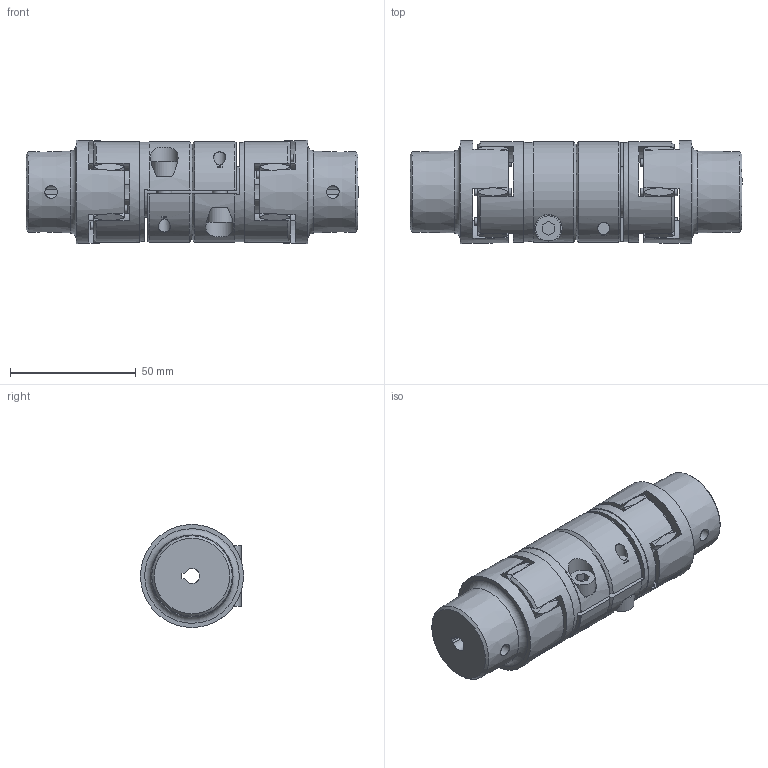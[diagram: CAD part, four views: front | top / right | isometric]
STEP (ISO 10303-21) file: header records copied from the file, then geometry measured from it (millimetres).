
FILE_DESCRIPTION(/* description */ (''),/* implementation_level */ '2;1');
FILE_NAME(/* name */ 'VRRP19-L82-6-PF-6-PF',/* time_stamp */ '2024-01-05T15:32:22+01:00',/* author */ ('M. Horlacher'),/* organization */ (''),/* preprocessor_version */ 'ST-DEVELOPER v20',/* originating_system */ 'Autodesk Inventor 2024',/* authorisation */ '');
FILE_SCHEMA (('AUTOMOTIVE_DESIGN { 1 0 10303 214 3 1 1 }'));
Length unit declared in the file: millimetre
Products named in the file (6): RP STEP; RP19 ø20H7-KL-AL; RP19-Nabe_1; RP19 Stern 92Shore; RP19-Nabe_1_1; VE Rohr Dummy
Assembly tree (7 placements, depth 2):
  RP STEP
    RP19 ø20H7-KL-AL  x2
    RP19 Stern 92Shore  x2
    RP19-Nabe_1
    RP19-Nabe_1_1
    VE Rohr Dummy
Bounding box: 132 x 41 x 41 mm (x, y, z)
Volume: 120496.2 mm3; surface area: 48444.3 mm2
Topology: 9 solids, 9 shells, 238 faces, 598 edges, 400 vertices
Faces by surface type: plane 92, cylinder 62, bspline 48, cone 34, torus 2
Full cylindrical faces by diameter (mm): 3 x12, 4.8 x2, 5 x2, 6 x2, 6.6 x4, 10 x2, 14 x1, 18 x2, 20 x3, 39.4 x2, 40 x2
Entity records: 5778 total; most frequent: CARTESIAN_POINT 2035, DIRECTION 741, ORIENTED_EDGE 732, EDGE_CURVE 366, AXIS2_PLACEMENT_3D 319, VERTEX_POINT 245, EDGE_LOOP 175, CIRCLE 173
